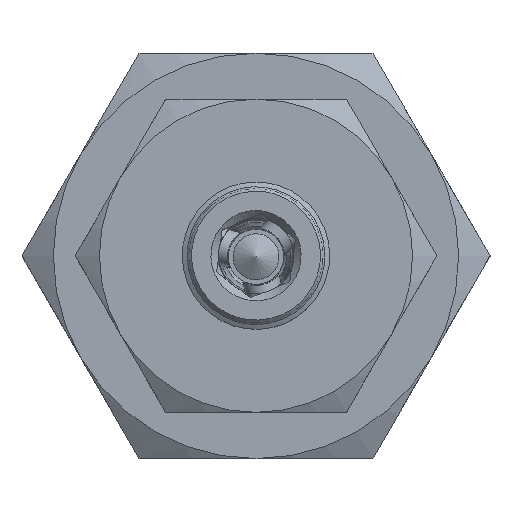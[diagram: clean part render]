
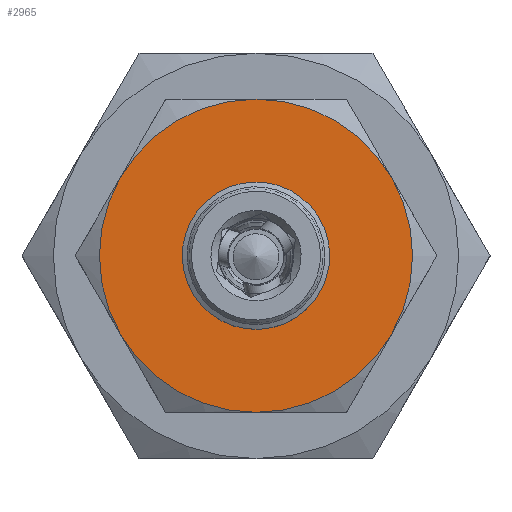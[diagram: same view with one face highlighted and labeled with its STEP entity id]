
A CAD part, top view. The second image highlights one B-rep face of the part: STEP entity #2965.
In plain terms, the highlighted planar face has unit normal (0, 0, 1).
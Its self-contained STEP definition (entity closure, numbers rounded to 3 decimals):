
#21 = EDGE_CURVE ( 'NONE', #12650, #3871, #6472, .T. ) ;
#28 = FACE_OUTER_BOUND ( 'NONE', #11194, .T. ) ;
#30 = CIRCLE ( 'NONE', #7875, 8.5 ) ;
#513 = CIRCLE ( 'NONE', #12818, 8.5 ) ;
#540 = CARTESIAN_POINT ( 'NONE',  ( 0., 0., 9.8 ) ) ;
#676 = EDGE_CURVE ( 'NONE', #3871, #8846, #513, .T. ) ;
#688 = ORIENTED_EDGE ( 'NONE', *, *, #10237, .T. ) ;
#875 = FACE_BOUND ( 'NONE', #9728, .T. ) ;
#962 = AXIS2_PLACEMENT_3D ( 'NONE', #2748, #7722, #4601 ) ;
#1219 = CARTESIAN_POINT ( 'NONE',  ( 3.9, 0., 9.8 ) ) ;
#1669 = DIRECTION ( 'NONE',  ( 1., 0., 0. ) ) ;
#1725 = VERTEX_POINT ( 'NONE', #8411 ) ;
#1821 = CARTESIAN_POINT ( 'NONE',  ( 7.361, 4.25, 9.8 ) ) ;
#1881 = DIRECTION ( 'NONE',  ( 1., 0., 0. ) ) ;
#2120 = CIRCLE ( 'NONE', #10378, 8.5 ) ;
#2133 = CARTESIAN_POINT ( 'NONE',  ( 0., 0., 9.8 ) ) ;
#2414 = DIRECTION ( 'NONE',  ( 0., 0., -1. ) ) ;
#2474 = DIRECTION ( 'NONE',  ( 1., 0., 0. ) ) ;
#2748 = CARTESIAN_POINT ( 'NONE',  ( 0., 0., 9.8 ) ) ;
#2756 = DIRECTION ( 'NONE',  ( 0., 0., -1. ) ) ;
#2965 = ADVANCED_FACE ( 'NONE', ( #875, #28 ), #12042, .F. ) ;
#3012 = CIRCLE ( 'NONE', #6607, 8.5 ) ;
#3135 = DIRECTION ( 'NONE',  ( -1., 0., 0. ) ) ;
#3206 = AXIS2_PLACEMENT_3D ( 'NONE', #10971, #2756, #1881 ) ;
#3359 = AXIS2_PLACEMENT_3D ( 'NONE', #12376, #2414, #4450 ) ;
#3596 = DIRECTION ( 'NONE',  ( 0., 0., -1. ) ) ;
#3871 = VERTEX_POINT ( 'NONE', #10612 ) ;
#4154 = EDGE_CURVE ( 'NONE', #8167, #1725, #2120, .T. ) ;
#4450 = DIRECTION ( 'NONE',  ( 1., 0., 0. ) ) ;
#4453 = VERTEX_POINT ( 'NONE', #12826 ) ;
#4459 = ORIENTED_EDGE ( 'NONE', *, *, #676, .F. ) ;
#4589 = ORIENTED_EDGE ( 'NONE', *, *, #6873, .F. ) ;
#4601 = DIRECTION ( 'NONE',  ( 1., 0., 0. ) ) ;
#4861 = AXIS2_PLACEMENT_3D ( 'NONE', #6773, #3596, #1669 ) ;
#5175 = CARTESIAN_POINT ( 'NONE',  ( 0., -8.5, 9.8 ) ) ;
#6472 = CIRCLE ( 'NONE', #962, 8.5 ) ;
#6607 = AXIS2_PLACEMENT_3D ( 'NONE', #11189, #10180, #9374 ) ;
#6773 = CARTESIAN_POINT ( 'NONE',  ( 0., 0., 9.8 ) ) ;
#6873 = EDGE_CURVE ( 'NONE', #4453, #8167, #9967, .T. ) ;
#6909 = ORIENTED_EDGE ( 'NONE', *, *, #4154, .F. ) ;
#7093 = CARTESIAN_POINT ( 'NONE',  ( -7.361, 4.25, 9.8 ) ) ;
#7322 = EDGE_CURVE ( 'NONE', #1725, #12650, #3012, .T. ) ;
#7584 = DIRECTION ( 'NONE',  ( 0., 0., -1. ) ) ;
#7722 = DIRECTION ( 'NONE',  ( 0., 0., -1. ) ) ;
#7875 = AXIS2_PLACEMENT_3D ( 'NONE', #2133, #12099, #3135 ) ;
#8134 = DIRECTION ( 'NONE',  ( 1., 0., 0. ) ) ;
#8167 = VERTEX_POINT ( 'NONE', #7093 ) ;
#8411 = CARTESIAN_POINT ( 'NONE',  ( 0., 8.5, 9.8 ) ) ;
#8846 = VERTEX_POINT ( 'NONE', #5175 ) ;
#9374 = DIRECTION ( 'NONE',  ( 1., 0., 0. ) ) ;
#9728 = EDGE_LOOP ( 'NONE', ( #688 ) ) ;
#9967 = CIRCLE ( 'NONE', #3206, 8.5 ) ;
#10038 = DIRECTION ( 'NONE',  ( 0., 0., -1. ) ) ;
#10180 = DIRECTION ( 'NONE',  ( 0., 0., -1. ) ) ;
#10237 = EDGE_CURVE ( 'NONE', #10309, #10309, #12917, .T. ) ;
#10309 = VERTEX_POINT ( 'NONE', #1219 ) ;
#10378 = AXIS2_PLACEMENT_3D ( 'NONE', #540, #7584, #2474 ) ;
#10612 = CARTESIAN_POINT ( 'NONE',  ( 7.361, -4.25, 9.8 ) ) ;
#10971 = CARTESIAN_POINT ( 'NONE',  ( 0., 0., 9.8 ) ) ;
#11189 = CARTESIAN_POINT ( 'NONE',  ( 0., 0., 9.8 ) ) ;
#11194 = EDGE_LOOP ( 'NONE', ( #4459, #12187, #11361, #6909, #4589, #12796 ) ) ;
#11361 = ORIENTED_EDGE ( 'NONE', *, *, #7322, .F. ) ;
#12041 = EDGE_CURVE ( 'NONE', #4453, #8846, #30, .T. ) ;
#12042 = PLANE ( 'NONE',  #3359 ) ;
#12050 = CARTESIAN_POINT ( 'NONE',  ( 0., 0., 9.8 ) ) ;
#12099 = DIRECTION ( 'NONE',  ( 0., 0., 1. ) ) ;
#12187 = ORIENTED_EDGE ( 'NONE', *, *, #21, .F. ) ;
#12376 = CARTESIAN_POINT ( 'NONE',  ( 14.722, -8.5, 9.8 ) ) ;
#12650 = VERTEX_POINT ( 'NONE', #1821 ) ;
#12796 = ORIENTED_EDGE ( 'NONE', *, *, #12041, .T. ) ;
#12818 = AXIS2_PLACEMENT_3D ( 'NONE', #12050, #10038, #8134 ) ;
#12826 = CARTESIAN_POINT ( 'NONE',  ( -7.361, -4.25, 9.8 ) ) ;
#12917 = CIRCLE ( 'NONE', #4861, 3.9 ) ;
